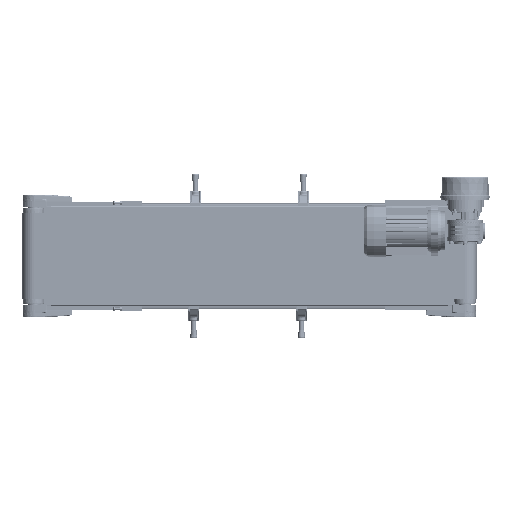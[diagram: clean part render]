
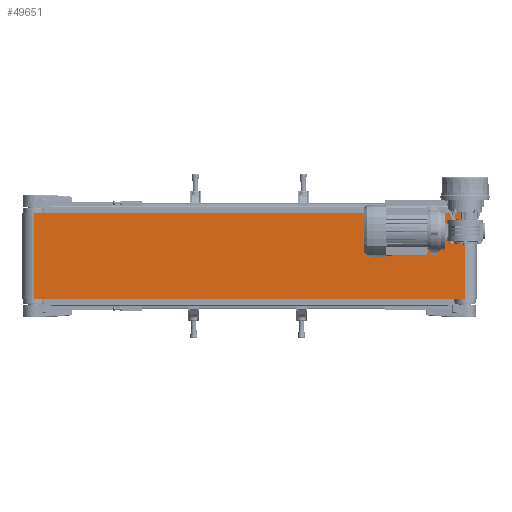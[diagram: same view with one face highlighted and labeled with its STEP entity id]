
A CAD part, front view. The second image highlights one B-rep face of the part: STEP entity #49651.
In plain terms, the highlighted planar face has unit normal (0, -1, 0).
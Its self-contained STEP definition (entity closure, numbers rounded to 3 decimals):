
#344 = AXIS2_PLACEMENT_3D ( 'NONE', #132337, #171067, #40306 ) ;
#9493 = LINE ( 'NONE', #80932, #165329 ) ;
#16910 = LINE ( 'NONE', #152119, #72242 ) ;
#23647 = DIRECTION ( 'NONE',  ( 0., 0., -1. ) ) ;
#28639 = CARTESIAN_POINT ( 'NONE',  ( -500., -27., -100. ) ) ;
#40306 = DIRECTION ( 'NONE',  ( 0., 0., 1. ) ) ;
#41337 = DIRECTION ( 'NONE',  ( 0., 0., -1. ) ) ;
#49651 = ADVANCED_FACE ( 'NONE', ( #137096 ), #58514, .F. ) ;
#58514 = PLANE ( 'NONE',  #344 ) ;
#72242 = VECTOR ( 'NONE', #90721, 1000. ) ;
#78080 = CARTESIAN_POINT ( 'NONE',  ( 500., -27., 100. ) ) ;
#80880 = CARTESIAN_POINT ( 'NONE',  ( 500., -27., 100. ) ) ;
#80932 = CARTESIAN_POINT ( 'NONE',  ( -500., -27., 100. ) ) ;
#81462 = VERTEX_POINT ( 'NONE', #28639 ) ;
#83339 = DIRECTION ( 'NONE',  ( 1., 0., 0. ) ) ;
#90721 = DIRECTION ( 'NONE',  ( 1., 0., 0. ) ) ;
#91234 = EDGE_CURVE ( 'NONE', #200839, #138016, #95059, .T. ) ;
#91931 = VERTEX_POINT ( 'NONE', #116215 ) ;
#95059 = LINE ( 'NONE', #78080, #220885 ) ;
#97865 = ORIENTED_EDGE ( 'NONE', *, *, #161428, .F. ) ;
#113308 = EDGE_CURVE ( 'NONE', #81462, #138016, #16910, .T. ) ;
#116215 = CARTESIAN_POINT ( 'NONE',  ( -500., -27., 100. ) ) ;
#123677 = EDGE_LOOP ( 'NONE', ( #202892, #209079, #97865, #129276 ) ) ;
#129276 = ORIENTED_EDGE ( 'NONE', *, *, #171949, .T. ) ;
#132337 = CARTESIAN_POINT ( 'NONE',  ( -500., -27., 100. ) ) ;
#135526 = CARTESIAN_POINT ( 'NONE',  ( 500., -27., -100. ) ) ;
#137096 = FACE_OUTER_BOUND ( 'NONE', #123677, .T. ) ;
#138016 = VERTEX_POINT ( 'NONE', #135526 ) ;
#152119 = CARTESIAN_POINT ( 'NONE',  ( -500., -27., -100. ) ) ;
#161428 = EDGE_CURVE ( 'NONE', #91931, #200839, #9493, .T. ) ;
#164937 = CARTESIAN_POINT ( 'NONE',  ( -500., -27., 100. ) ) ;
#165329 = VECTOR ( 'NONE', #83339, 1000. ) ;
#171067 = DIRECTION ( 'NONE',  ( 0., 1., 0. ) ) ;
#171949 = EDGE_CURVE ( 'NONE', #91931, #81462, #184250, .T. ) ;
#184250 = LINE ( 'NONE', #164937, #209126 ) ;
#200839 = VERTEX_POINT ( 'NONE', #80880 ) ;
#202892 = ORIENTED_EDGE ( 'NONE', *, *, #113308, .T. ) ;
#209079 = ORIENTED_EDGE ( 'NONE', *, *, #91234, .F. ) ;
#209126 = VECTOR ( 'NONE', #41337, 1000. ) ;
#220885 = VECTOR ( 'NONE', #23647, 1000. ) ;
